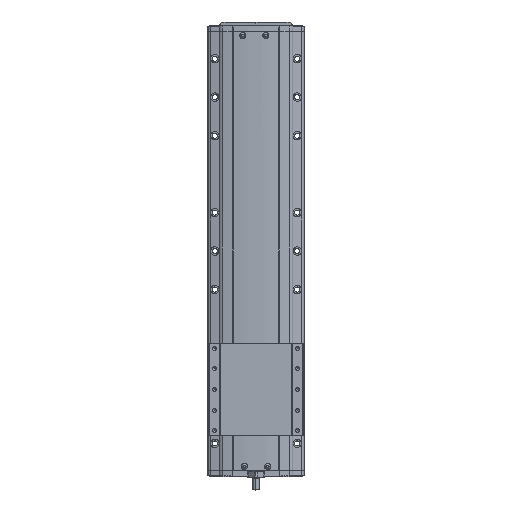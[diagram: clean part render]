
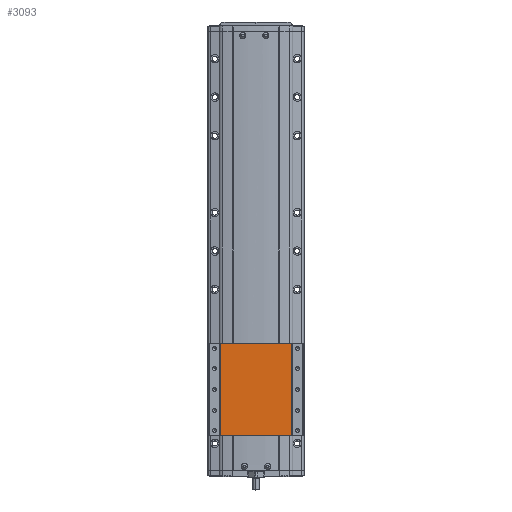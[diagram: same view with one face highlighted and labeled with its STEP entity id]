
A CAD part, top view. The second image highlights one B-rep face of the part: STEP entity #3093.
In plain terms, the highlighted planar face has unit normal (0, 0, 1).
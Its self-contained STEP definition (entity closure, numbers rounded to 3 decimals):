
#3093=ADVANCED_FACE('',(#7440),#7441,.F.);
#7440=FACE_OUTER_BOUND('',#13824,.T.);
#7441=PLANE('',#13825);
#13824=EDGE_LOOP('',(#23682,#23683,#23684,#23685));
#13825=AXIS2_PLACEMENT_3D('',#23686,#23687,#23688);
#23682=ORIENTED_EDGE('',*,*,#38717,.F.);
#23683=ORIENTED_EDGE('',*,*,#36776,.F.);
#23684=ORIENTED_EDGE('',*,*,#38718,.F.);
#23685=ORIENTED_EDGE('',*,*,#38719,.T.);
#23686=CARTESIAN_POINT('',(-300.,-107.778,36.5));
#23687=DIRECTION('',(0.,0.,-1.0));
#23688=DIRECTION('',(-1.0,0.,0.));
#36776=EDGE_CURVE('',#44211,#44207,#44213,.T.);
#38717=EDGE_CURVE('',#44207,#47394,#47395,.T.);
#38718=EDGE_CURVE('',#47396,#44211,#47397,.T.);
#38719=EDGE_CURVE('',#47396,#47394,#47398,.T.);
#44207=VERTEX_POINT('',#54960);
#44211=VERTEX_POINT('',#54965);
#44213=LINE('',#54967,#54968);
#47394=VERTEX_POINT('',#59513);
#47395=LINE('',#59514,#59515);
#47396=VERTEX_POINT('',#59516);
#47397=LINE('',#59517,#59518);
#47398=LINE('',#59519,#59520);
#54960=CARTESIAN_POINT('',(-346.376,12.222,36.5));
#54965=CARTESIAN_POINT('',(-346.376,-107.778,36.5));
#54967=CARTESIAN_POINT('',(-346.376,-107.778,36.5));
#54968=VECTOR('',#68166,10.0);
#59513=CARTESIAN_POINT('',(-253.624,12.222,36.5));
#59514=CARTESIAN_POINT('',(-253.624,12.222,36.5));
#59515=VECTOR('',#70671,10.0);
#59516=CARTESIAN_POINT('',(-253.624,-107.778,36.5));
#59517=CARTESIAN_POINT('',(-253.624,-107.778,36.5));
#59518=VECTOR('',#70672,10.0);
#59519=CARTESIAN_POINT('',(-253.624,-107.778,36.5));
#59520=VECTOR('',#70673,10.0);
#68166=DIRECTION('',(0.,1.0,0.));
#70671=DIRECTION('',(1.0,0.,0.));
#70672=DIRECTION('',(-1.0,0.,0.));
#70673=DIRECTION('',(0.,1.0,0.));
